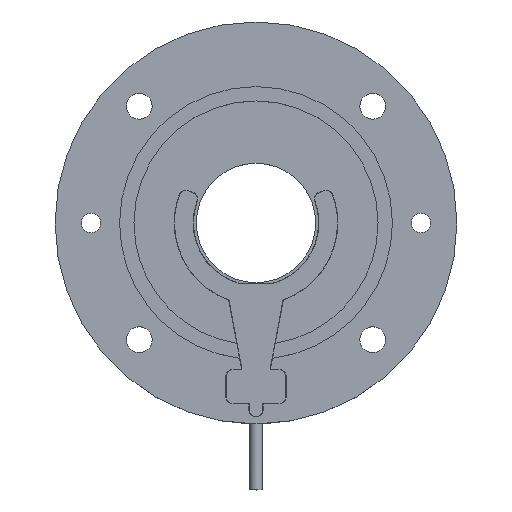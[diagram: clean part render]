
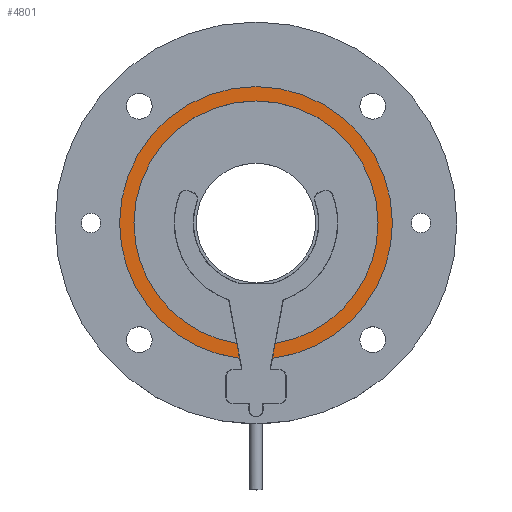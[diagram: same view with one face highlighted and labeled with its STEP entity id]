
A CAD part, top view. The second image highlights one B-rep face of the part: STEP entity #4801.
In plain terms, the highlighted planar face has unit normal (0, 0, 1).
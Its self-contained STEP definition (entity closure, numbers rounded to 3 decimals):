
#85 = VERTEX_POINT ( 'NONE', #3518 ) ;
#238 = EDGE_CURVE ( 'NONE', #3293, #85, #3452, .T. ) ;
#241 = DIRECTION ( 'NONE',  ( 0., 0., 1. ) ) ;
#243 = DIRECTION ( 'NONE',  ( 1., 0., 0. ) ) ;
#288 = CARTESIAN_POINT ( 'NONE',  ( 0., 0., 0. ) ) ;
#350 = CARTESIAN_POINT ( 'NONE',  ( 5.716, -47.155, 0. ) ) ;
#461 = EDGE_CURVE ( 'NONE', #3894, #4654, #2394, .T. ) ;
#469 = CARTESIAN_POINT ( 'NONE',  ( -21.674, 38.46, 0. ) ) ;
#587 = AXIS2_PLACEMENT_3D ( 'NONE', #4068, #3654, #243 ) ;
#643 = ORIENTED_EDGE ( 'NONE', *, *, #3893, .T. ) ;
#647 = DIRECTION ( 'NONE',  ( 1., 0., 0. ) ) ;
#696 = ORIENTED_EDGE ( 'NONE', *, *, #2126, .F. ) ;
#946 = CARTESIAN_POINT ( 'NONE',  ( 0., 0., 0. ) ) ;
#970 = DIRECTION ( 'NONE',  ( 0., 0., 1. ) ) ;
#1081 = VERTEX_POINT ( 'NONE', #3236 ) ;
#1095 = EDGE_CURVE ( 'NONE', #2856, #1081, #4446, .T. ) ;
#1244 = DIRECTION ( 'NONE',  ( 0.183, -0.983, 0. ) ) ;
#1410 = DIRECTION ( 'NONE',  ( 1., 0., 0. ) ) ;
#1427 = DIRECTION ( 'NONE',  ( 0., 0., 1. ) ) ;
#1643 = VECTOR ( 'NONE', #1244, 1000. ) ;
#1694 = CIRCLE ( 'NONE', #4280, 47.5 ) ;
#1732 = AXIS2_PLACEMENT_3D ( 'NONE', #288, #1776, #1410 ) ;
#1776 = DIRECTION ( 'NONE',  ( 0., 0., 1. ) ) ;
#1782 = DIRECTION ( 'NONE',  ( 1., 0., 0. ) ) ;
#1817 = FACE_OUTER_BOUND ( 'NONE', #1949, .T. ) ;
#1876 = VECTOR ( 'NONE', #4870, 1000. ) ;
#1949 = EDGE_LOOP ( 'NONE', ( #3488, #2045, #1963, #643, #2016, #3226, #696, #4796 ) ) ;
#1963 = ORIENTED_EDGE ( 'NONE', *, *, #461, .T. ) ;
#2016 = ORIENTED_EDGE ( 'NONE', *, *, #238, .T. ) ;
#2045 = ORIENTED_EDGE ( 'NONE', *, *, #2210, .T. ) ;
#2126 = EDGE_CURVE ( 'NONE', #2514, #4258, #3437, .T. ) ;
#2135 = CARTESIAN_POINT ( 'NONE',  ( -6.683, -41.971, 0. ) ) ;
#2141 = CARTESIAN_POINT ( 'NONE',  ( 0., 0., 0. ) ) ;
#2153 = CARTESIAN_POINT ( 'NONE',  ( 6.682, -41.971, 0. ) ) ;
#2185 = CARTESIAN_POINT ( 'NONE',  ( -42.5, 0., 0. ) ) ;
#2210 = EDGE_CURVE ( 'NONE', #2856, #3894, #2607, .T. ) ;
#2215 = CARTESIAN_POINT ( 'NONE',  ( 21.664, 38.465, 0. ) ) ;
#2234 = AXIS2_PLACEMENT_3D ( 'NONE', #2627, #241, #1782 ) ;
#2266 = AXIS2_PLACEMENT_3D ( 'NONE', #4802, #4132, #3320 ) ;
#2275 = EDGE_CURVE ( 'NONE', #4258, #85, #4564, .T. ) ;
#2394 = CIRCLE ( 'NONE', #2628, 47.5 ) ;
#2450 = CARTESIAN_POINT ( 'NONE',  ( 47.5, 0., 0. ) ) ;
#2463 = AXIS2_PLACEMENT_3D ( 'NONE', #3382, #2615, #2965 ) ;
#2514 = VERTEX_POINT ( 'NONE', #2185 ) ;
#2607 = LINE ( 'NONE', #2215, #1876 ) ;
#2615 = DIRECTION ( 'NONE',  ( 0., 0., -1. ) ) ;
#2627 = CARTESIAN_POINT ( 'NONE',  ( 0., 0., 0. ) ) ;
#2628 = AXIS2_PLACEMENT_3D ( 'NONE', #946, #970, #3879 ) ;
#2856 = VERTEX_POINT ( 'NONE', #2153 ) ;
#2965 = DIRECTION ( 'NONE',  ( -1., 0., 0. ) ) ;
#3019 = CIRCLE ( 'NONE', #2234, 42.5 ) ;
#3226 = ORIENTED_EDGE ( 'NONE', *, *, #2275, .F. ) ;
#3236 = CARTESIAN_POINT ( 'NONE',  ( 42.5, 0., 0. ) ) ;
#3253 = CARTESIAN_POINT ( 'NONE',  ( -47.5, 0., 0. ) ) ;
#3293 = VERTEX_POINT ( 'NONE', #3253 ) ;
#3320 = DIRECTION ( 'NONE',  ( 1., 0., 0. ) ) ;
#3382 = CARTESIAN_POINT ( 'NONE',  ( 0., 42.5, 0. ) ) ;
#3437 = CIRCLE ( 'NONE', #2266, 42.5 ) ;
#3452 = CIRCLE ( 'NONE', #1732, 47.5 ) ;
#3488 = ORIENTED_EDGE ( 'NONE', *, *, #1095, .F. ) ;
#3518 = CARTESIAN_POINT ( 'NONE',  ( -5.717, -47.155, 0. ) ) ;
#3536 = EDGE_CURVE ( 'NONE', #1081, #2514, #3019, .T. ) ;
#3654 = DIRECTION ( 'NONE',  ( 0., 0., 1. ) ) ;
#3879 = DIRECTION ( 'NONE',  ( 1., 0., 0. ) ) ;
#3893 = EDGE_CURVE ( 'NONE', #4654, #3293, #1694, .T. ) ;
#3894 = VERTEX_POINT ( 'NONE', #350 ) ;
#4068 = CARTESIAN_POINT ( 'NONE',  ( 0., 0., 0. ) ) ;
#4132 = DIRECTION ( 'NONE',  ( 0., 0., 1. ) ) ;
#4258 = VERTEX_POINT ( 'NONE', #2135 ) ;
#4280 = AXIS2_PLACEMENT_3D ( 'NONE', #2141, #1427, #647 ) ;
#4446 = CIRCLE ( 'NONE', #587, 42.5 ) ;
#4564 = LINE ( 'NONE', #469, #1643 ) ;
#4654 = VERTEX_POINT ( 'NONE', #2450 ) ;
#4796 = ORIENTED_EDGE ( 'NONE', *, *, #3536, .F. ) ;
#4801 = ADVANCED_FACE ( 'NONE', ( #1817 ), #4834, .F. ) ;
#4802 = CARTESIAN_POINT ( 'NONE',  ( 0., 0., 0. ) ) ;
#4834 = PLANE ( 'NONE',  #2463 ) ;
#4870 = DIRECTION ( 'NONE',  ( -0.183, -0.983, 0. ) ) ;
